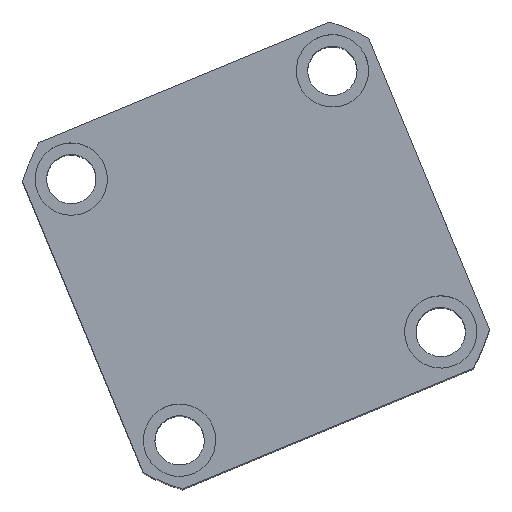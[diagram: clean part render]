
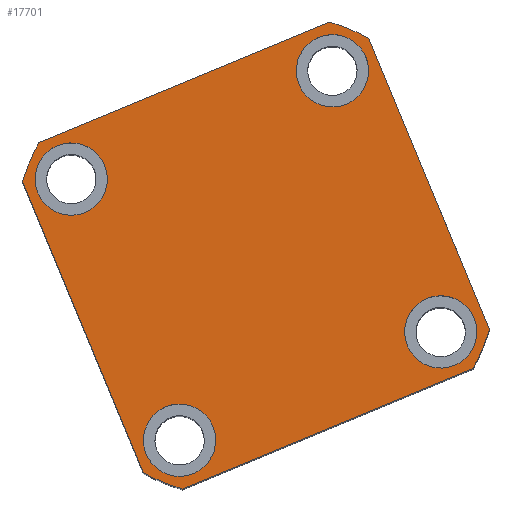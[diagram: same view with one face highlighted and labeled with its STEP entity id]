
A CAD part, top view. The second image highlights one B-rep face of the part: STEP entity #17701.
In plain terms, the highlighted planar face has unit normal (0, 0, 1) as drawn and (0, 0, -1) by its records, which use the part's own axes.
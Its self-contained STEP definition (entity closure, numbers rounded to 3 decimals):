
#43 = AXIS2_PLACEMENT_3D ( 'NONE', #11430, #2019, #13017 ) ;
#208 = VECTOR ( 'NONE', #4671, 1000. ) ;
#410 = EDGE_CURVE ( 'NONE', #19037, #942, #2379, .T. ) ;
#616 = EDGE_CURVE ( 'NONE', #18641, #10313, #14419, .T. ) ;
#890 = ORIENTED_EDGE ( 'NONE', *, *, #12505, .F. ) ;
#942 = VERTEX_POINT ( 'NONE', #1546 ) ;
#1372 = ORIENTED_EDGE ( 'NONE', *, *, #14172, .F. ) ;
#1526 = LINE ( 'NONE', #3625, #9884 ) ;
#1546 = CARTESIAN_POINT ( 'NONE',  ( 57., -47.971, 0. ) ) ;
#1606 = EDGE_LOOP ( 'NONE', ( #9734, #13914, #18124, #1863, #6032, #14404, #6525, #2361 ) ) ;
#1750 = EDGE_CURVE ( 'NONE', #10313, #18641, #7032, .T. ) ;
#1863 = ORIENTED_EDGE ( 'NONE', *, *, #2186, .F. ) ;
#1978 = EDGE_CURVE ( 'NONE', #2020, #14479, #9232, .T. ) ;
#2019 = DIRECTION ( 'NONE',  ( 0., 0., 1. ) ) ;
#2020 = VERTEX_POINT ( 'NONE', #17837 ) ;
#2092 = CIRCLE ( 'NONE', #20123, 11. ) ;
#2186 = EDGE_CURVE ( 'NONE', #13754, #19037, #20352, .T. ) ;
#2357 = CARTESIAN_POINT ( 'NONE',  ( -57., -57., 0. ) ) ;
#2361 = ORIENTED_EDGE ( 'NONE', *, *, #11918, .F. ) ;
#2379 = CIRCLE ( 'NONE', #11102, 74.5 ) ;
#2506 = EDGE_CURVE ( 'NONE', #4636, #15165, #2092, .T. ) ;
#2684 = CIRCLE ( 'NONE', #18151, 11. ) ;
#2781 = DIRECTION ( 'NONE',  ( 0., 0., 1. ) ) ;
#2820 = CARTESIAN_POINT ( 'NONE',  ( 43., -43., 0. ) ) ;
#2981 = CARTESIAN_POINT ( 'NONE',  ( 54., 43., 0. ) ) ;
#3150 = CARTESIAN_POINT ( 'NONE',  ( 32., -43., 0. ) ) ;
#3233 = CARTESIAN_POINT ( 'NONE',  ( -43., 43., 0. ) ) ;
#3458 = AXIS2_PLACEMENT_3D ( 'NONE', #2820, #13822, #4403 ) ;
#3521 = CARTESIAN_POINT ( 'NONE',  ( -47.971, -57., 0. ) ) ;
#3625 = CARTESIAN_POINT ( 'NONE',  ( -57., 57., 0. ) ) ;
#3866 = DIRECTION ( 'NONE',  ( 0., 0., -1. ) ) ;
#4059 = VECTOR ( 'NONE', #14997, 1000. ) ;
#4155 = FACE_BOUND ( 'NONE', #16386, .T. ) ;
#4314 = PLANE ( 'NONE',  #10736 ) ;
#4403 = DIRECTION ( 'NONE',  ( -1., 0., 0. ) ) ;
#4584 = CARTESIAN_POINT ( 'NONE',  ( 47.971, 57., 0. ) ) ;
#4596 = DIRECTION ( 'NONE',  ( 0., 0., -1. ) ) ;
#4636 = VERTEX_POINT ( 'NONE', #8041 ) ;
#4671 = DIRECTION ( 'NONE',  ( 0., 1., 0. ) ) ;
#4794 = CARTESIAN_POINT ( 'NONE',  ( 43., 43., 0. ) ) ;
#4806 = DIRECTION ( 'NONE',  ( -1., 0., 0. ) ) ;
#4816 = EDGE_LOOP ( 'NONE', ( #17599, #1372 ) ) ;
#5047 = ORIENTED_EDGE ( 'NONE', *, *, #5582, .F. ) ;
#5582 = EDGE_CURVE ( 'NONE', #10031, #6021, #18456, .T. ) ;
#5737 = CARTESIAN_POINT ( 'NONE',  ( 43., 43., 0. ) ) ;
#5768 = CARTESIAN_POINT ( 'NONE',  ( 43., -43., 0. ) ) ;
#5881 = LINE ( 'NONE', #14095, #208 ) ;
#5968 = DIRECTION ( 'NONE',  ( 0., 0., 1. ) ) ;
#6021 = VERTEX_POINT ( 'NONE', #3150 ) ;
#6032 = ORIENTED_EDGE ( 'NONE', *, *, #20093, .F. ) ;
#6058 = DIRECTION ( 'NONE',  ( 0., 0., 1. ) ) ;
#6116 = CARTESIAN_POINT ( 'NONE',  ( -54., -43., 0. ) ) ;
#6386 = DIRECTION ( 'NONE',  ( -1., 0., 0. ) ) ;
#6493 = DIRECTION ( 'NONE',  ( -1., 0., 0. ) ) ;
#6525 = ORIENTED_EDGE ( 'NONE', *, *, #15049, .F. ) ;
#6561 = EDGE_LOOP ( 'NONE', ( #9240, #13428 ) ) ;
#6704 = CARTESIAN_POINT ( 'NONE',  ( -32., -43., 0. ) ) ;
#6762 = AXIS2_PLACEMENT_3D ( 'NONE', #12197, #2781, #13784 ) ;
#6825 = AXIS2_PLACEMENT_3D ( 'NONE', #5737, #16747, #7323 ) ;
#7008 = CARTESIAN_POINT ( 'NONE',  ( 47.971, -57., 0. ) ) ;
#7032 = CIRCLE ( 'NONE', #13101, 11. ) ;
#7089 = VERTEX_POINT ( 'NONE', #16590 ) ;
#7323 = DIRECTION ( 'NONE',  ( -1., 0., 0. ) ) ;
#7359 = DIRECTION ( 'NONE',  ( -1., 0., 0. ) ) ;
#7465 = EDGE_LOOP ( 'NONE', ( #12928, #17109 ) ) ;
#7554 = AXIS2_PLACEMENT_3D ( 'NONE', #14029, #4596, #15593 ) ;
#8041 = CARTESIAN_POINT ( 'NONE',  ( -54., 43., 0. ) ) ;
#8075 = CARTESIAN_POINT ( 'NONE',  ( -43., -43., 0. ) ) ;
#8342 = FACE_BOUND ( 'NONE', #4816, .T. ) ;
#8879 = EDGE_CURVE ( 'NONE', #10638, #7089, #1526, .T. ) ;
#9103 = CIRCLE ( 'NONE', #7554, 11. ) ;
#9232 = CIRCLE ( 'NONE', #43, 74.5 ) ;
#9240 = ORIENTED_EDGE ( 'NONE', *, *, #10658, .F. ) ;
#9313 = CARTESIAN_POINT ( 'NONE',  ( -57., 57., 0. ) ) ;
#9734 = ORIENTED_EDGE ( 'NONE', *, *, #1978, .F. ) ;
#9825 = DIRECTION ( 'NONE',  ( 1., 0., 0. ) ) ;
#9869 = LINE ( 'NONE', #9313, #13565 ) ;
#9875 = CARTESIAN_POINT ( 'NONE',  ( -47.971, 57., 0. ) ) ;
#9884 = VECTOR ( 'NONE', #19481, 1000. ) ;
#10027 = DIRECTION ( 'NONE',  ( 0., 0., 1. ) ) ;
#10031 = VERTEX_POINT ( 'NONE', #18796 ) ;
#10108 = CARTESIAN_POINT ( 'NONE',  ( 0., 0., 0. ) ) ;
#10313 = VERTEX_POINT ( 'NONE', #6704 ) ;
#10418 = CARTESIAN_POINT ( 'NONE',  ( -57., 47.971, 0. ) ) ;
#10604 = CIRCLE ( 'NONE', #3458, 11. ) ;
#10638 = VERTEX_POINT ( 'NONE', #10418 ) ;
#10658 = EDGE_CURVE ( 'NONE', #11979, #20154, #19265, .T. ) ;
#10736 = AXIS2_PLACEMENT_3D ( 'NONE', #15380, #5968, #16975 ) ;
#10884 = CARTESIAN_POINT ( 'NONE',  ( 32., 43., 0. ) ) ;
#11102 = AXIS2_PLACEMENT_3D ( 'NONE', #10108, #10027, #9825 ) ;
#11430 = CARTESIAN_POINT ( 'NONE',  ( 0., 0., 0. ) ) ;
#11918 = EDGE_CURVE ( 'NONE', #14479, #12856, #9869, .T. ) ;
#11979 = VERTEX_POINT ( 'NONE', #10884 ) ;
#12197 = CARTESIAN_POINT ( 'NONE',  ( 0., 0., 0. ) ) ;
#12505 = EDGE_CURVE ( 'NONE', #6021, #10031, #10604, .T. ) ;
#12529 = FACE_BOUND ( 'NONE', #6561, .T. ) ;
#12534 = CIRCLE ( 'NONE', #6762, 74.5 ) ;
#12856 = VERTEX_POINT ( 'NONE', #9875 ) ;
#12928 = ORIENTED_EDGE ( 'NONE', *, *, #616, .F. ) ;
#13017 = DIRECTION ( 'NONE',  ( 1., 0., 0. ) ) ;
#13101 = AXIS2_PLACEMENT_3D ( 'NONE', #13300, #3866, #14862 ) ;
#13300 = CARTESIAN_POINT ( 'NONE',  ( -43., -43., 0. ) ) ;
#13428 = ORIENTED_EDGE ( 'NONE', *, *, #17985, .F. ) ;
#13565 = VECTOR ( 'NONE', #20354, 1000. ) ;
#13754 = VERTEX_POINT ( 'NONE', #3521 ) ;
#13784 = DIRECTION ( 'NONE',  ( 1., 0., 0. ) ) ;
#13822 = DIRECTION ( 'NONE',  ( 0., 0., -1. ) ) ;
#13914 = ORIENTED_EDGE ( 'NONE', *, *, #15431, .F. ) ;
#13982 = CARTESIAN_POINT ( 'NONE',  ( -32., 43., 0. ) ) ;
#14029 = CARTESIAN_POINT ( 'NONE',  ( -43., 43., 0. ) ) ;
#14095 = CARTESIAN_POINT ( 'NONE',  ( 57., 57., 0. ) ) ;
#14172 = EDGE_CURVE ( 'NONE', #15165, #4636, #9103, .T. ) ;
#14241 = DIRECTION ( 'NONE',  ( 0., 0., -1. ) ) ;
#14318 = AXIS2_PLACEMENT_3D ( 'NONE', #15481, #6058, #17065 ) ;
#14404 = ORIENTED_EDGE ( 'NONE', *, *, #8879, .F. ) ;
#14419 = CIRCLE ( 'NONE', #18525, 11. ) ;
#14479 = VERTEX_POINT ( 'NONE', #4584 ) ;
#14862 = DIRECTION ( 'NONE',  ( -1., 0., 0. ) ) ;
#14997 = DIRECTION ( 'NONE',  ( 1., 0., 0. ) ) ;
#15049 = EDGE_CURVE ( 'NONE', #12856, #10638, #12534, .T. ) ;
#15165 = VERTEX_POINT ( 'NONE', #13982 ) ;
#15380 = CARTESIAN_POINT ( 'NONE',  ( 0., 0., 0. ) ) ;
#15431 = EDGE_CURVE ( 'NONE', #942, #2020, #5881, .T. ) ;
#15481 = CARTESIAN_POINT ( 'NONE',  ( 0., 0., 0. ) ) ;
#15566 = AXIS2_PLACEMENT_3D ( 'NONE', #5768, #16780, #7359 ) ;
#15593 = DIRECTION ( 'NONE',  ( -1., 0., 0. ) ) ;
#15796 = DIRECTION ( 'NONE',  ( 0., 0., -1. ) ) ;
#16386 = EDGE_LOOP ( 'NONE', ( #890, #5047 ) ) ;
#16590 = CARTESIAN_POINT ( 'NONE',  ( -57., -47.971, 0. ) ) ;
#16714 = FACE_BOUND ( 'NONE', #7465, .T. ) ;
#16747 = DIRECTION ( 'NONE',  ( 0., 0., -1. ) ) ;
#16780 = DIRECTION ( 'NONE',  ( 0., 0., -1. ) ) ;
#16975 = DIRECTION ( 'NONE',  ( 1., 0., 0. ) ) ;
#17065 = DIRECTION ( 'NONE',  ( 1., 0., 0. ) ) ;
#17109 = ORIENTED_EDGE ( 'NONE', *, *, #1750, .F. ) ;
#17499 = DIRECTION ( 'NONE',  ( 0., 0., -1. ) ) ;
#17599 = ORIENTED_EDGE ( 'NONE', *, *, #2506, .F. ) ;
#17701 = ADVANCED_FACE ( 'NONE', ( #16714, #4155, #12529, #8342, #20451 ), #4314, .F. ) ;
#17837 = CARTESIAN_POINT ( 'NONE',  ( 57., 47.971, 0. ) ) ;
#17985 = EDGE_CURVE ( 'NONE', #20154, #11979, #2684, .T. ) ;
#18124 = ORIENTED_EDGE ( 'NONE', *, *, #410, .F. ) ;
#18151 = AXIS2_PLACEMENT_3D ( 'NONE', #4794, #15796, #6386 ) ;
#18456 = CIRCLE ( 'NONE', #15566, 11. ) ;
#18525 = AXIS2_PLACEMENT_3D ( 'NONE', #8075, #17499, #6493 ) ;
#18641 = VERTEX_POINT ( 'NONE', #6116 ) ;
#18796 = CARTESIAN_POINT ( 'NONE',  ( 54., -43., 0. ) ) ;
#19037 = VERTEX_POINT ( 'NONE', #7008 ) ;
#19265 = CIRCLE ( 'NONE', #6825, 11. ) ;
#19453 = CIRCLE ( 'NONE', #14318, 74.5 ) ;
#19481 = DIRECTION ( 'NONE',  ( 0., -1., 0. ) ) ;
#20093 = EDGE_CURVE ( 'NONE', #7089, #13754, #19453, .T. ) ;
#20123 = AXIS2_PLACEMENT_3D ( 'NONE', #3233, #14241, #4806 ) ;
#20154 = VERTEX_POINT ( 'NONE', #2981 ) ;
#20352 = LINE ( 'NONE', #2357, #4059 ) ;
#20354 = DIRECTION ( 'NONE',  ( -1., 0., 0. ) ) ;
#20451 = FACE_OUTER_BOUND ( 'NONE', #1606, .T. ) ;
